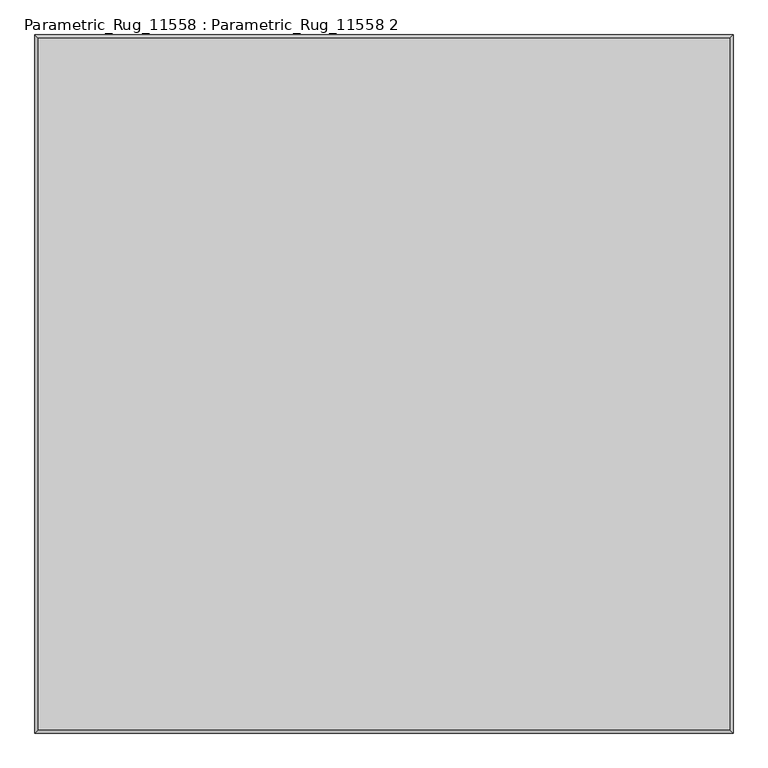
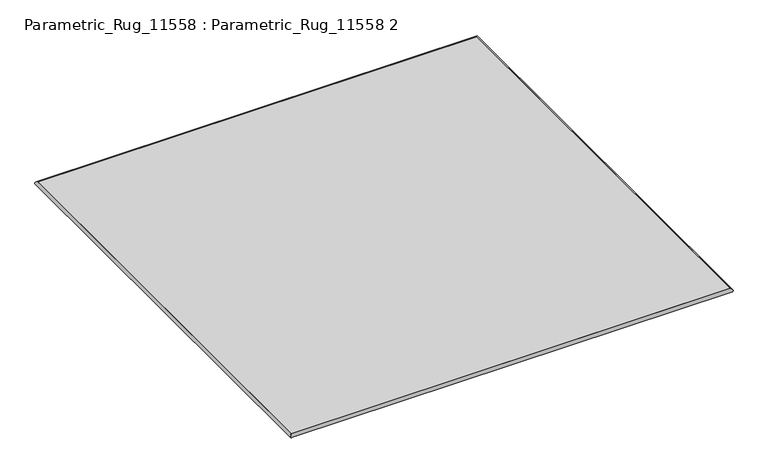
"""IFC4 building model written with IfcOpenShell, lengths in millimetres: furniture geometry, Parametric_Rug_11558 : Parametric_Rug_11558 2."""

from ifc_helpers import new_model, si_unit, frame, origin, origin_with_axes, place, context, project, spatial, polyline, ellipse_curve, outline, extrude, source, transform, mapped, element, save
from ifc_brep_helpers import plane_surface, cylinder_surface, advanced_brep


def parametric_rug_11558_parametric_rug_11558_2_d3ec6a22(model_context):
    return source(origin(), model_context, "Body", "SolidModel", [
        advanced_brep(
        [(3470.0, -3470.0, 0.0), (3470.0, -3470.0, 30.0), (3470.0, 0.0, 30.0), (3470.0, 0.0, 0.0), (0.0, 0.0, 30.0), (0.0, 0.0, 0.0), (0.0, -3470.0, 30.0), (0.0, -3470.0, 0.0)],
        [
            (0, 1),
            (1, 2),
            (2, 3),
            (3, 0),
            (1, 0, ellipse_curve(frame((3470.0, -3470.0, 15.0), z_axis=(0.7071067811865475, 0.7071067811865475, 0.0), x_axis=(0.7071067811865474, -0.7071067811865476, 0.0)), 21.2132034, 15.0)),
            (3, 2, ellipse_curve(frame((3470.0, 0.0, 15.0), z_axis=(0.7071067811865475, -0.7071067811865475, 0.0), x_axis=(-0.7071067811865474, -0.7071067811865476, 0.0)), 21.2132034, 15.0)),
            (2, 4),
            (4, 5),
            (5, 3),
            (5, 4, ellipse_curve(frame((0.0, 0.0, 15.0), z_axis=(0.7071067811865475, 0.7071067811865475, 0.0), x_axis=(0.7071067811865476, -0.7071067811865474, 0.0)), 21.2132034, 15.0)),
            (4, 6),
            (6, 7),
            (7, 5),
            (7, 6, ellipse_curve(frame((0.0, -3470.0, 15.0), z_axis=(-0.7071067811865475, 0.7071067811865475, 0.0), x_axis=(0.7071067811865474, 0.7071067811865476, 0.0)), 21.2132034, 15.0)),
            (6, 1),
            (0, 7),
        ],
        [
            plane_surface(frame((3470.0, -3470.0, 30.0), z_axis=(-1.0, 0.0, 0.0), x_axis=(0.0, 1.0, 0.0))),
            cylinder_surface(frame((3470.0, -3470.0, 15.0), z_axis=(0.0, -1.0, 0.0), x_axis=(-1.0, 0.0, 0.0)), 15.0),
            plane_surface(frame((3470.0, 0.0, 30.0), z_axis=(0.0, -1.0, 0.0), x_axis=(-1.0, 0.0, 0.0))),
            cylinder_surface(frame((3470.0, 0.0, 15.0), z_axis=(1.0, 0.0, 0.0), x_axis=(0.0, -1.0, 0.0)), 15.0),
            plane_surface(frame((0.0, 0.0, 30.0), z_axis=(1.0, 0.0, 0.0), x_axis=(0.0, -1.0, 0.0))),
            cylinder_surface(frame((0.0, 0.0, 15.0), z_axis=(0.0, 1.0, 0.0), x_axis=(1.0, 0.0, 0.0)), 15.0),
            plane_surface(frame((0.0, -3470.0, 30.0), z_axis=(0.0, 1.0, 0.0), x_axis=(1.0, 0.0, 0.0))),
            cylinder_surface(frame((0.0, -3470.0, 15.0), z_axis=(-1.0, 0.0, 0.0), x_axis=(0.0, 1.0, 0.0)), 15.0),
        ],
        [
            (0, [[1, 2, 3, 4]]),
            (1, [[5, -4, 6, -2]]),
            (2, [[-3, 7, 8, 9]]),
            (3, [[-6, -9, 10, -7]]),
            (4, [[-8, 11, 12, 13]]),
            (5, [[-10, -13, 14, -11]]),
            (6, [[-12, 15, -1, 16]]),
            (7, [[-14, -16, -5, -15]]),
        ],
    ),
        extrude(outline(polyline([(3470.0, 0.0), (3470.0, -3470.0), (0.0, -3470.0), (0.0, 0.0), (3470.0, 0.0)])), origin_with_axes(), (0.0, 0.0, 1.0), 30.0),
    ])


if __name__ == "__main__":
    model = new_model("IFC4")
    model_context = context("Model", 3, world=origin())
    ifc_project = project(units=[si_unit("LENGTHUNIT", "METRE", prefix="MILLI")], contexts=[model_context])
    site = spatial("IfcSite", under=ifc_project)
    building = spatial("IfcBuilding", under=site)
    placement = place(None, origin())
    parametric_rug_11558_parametric_rug_11558_2_shape = parametric_rug_11558_parametric_rug_11558_2_d3ec6a22(model_context)
    element("IfcFurniture", 1, ObjectType="Parametric_Rug_11558 : Parametric_Rug_11558 2", at=placement, inside=building, context=model_context, shape_type="MappedRepresentation", body=[
        mapped(parametric_rug_11558_parametric_rug_11558_2_shape, transform((0.0, 0.0, 0.0), x_axis=(1.0, 0.0, 0.0), y_axis=(0.0, 1.0, 0.0), z_axis=(0.0, 0.0, 1.0))),
    ])
    save(model, "model.ifc")
